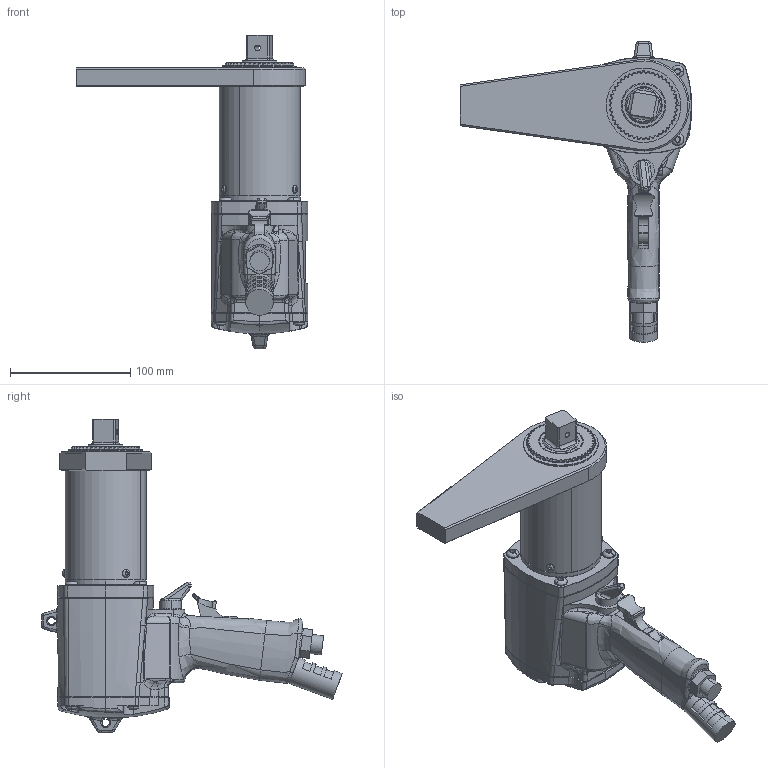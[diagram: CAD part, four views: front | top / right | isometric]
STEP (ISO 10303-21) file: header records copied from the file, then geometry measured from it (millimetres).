
FILE_DESCRIPTION (( 'STEP AP214' ), '1' );
FILE_NAME ('AAP1B66850A.STEP', '2014-12-06T00:37:58', ( 'AIMCO' ), ( '' ), 'SwSTEP 2.0', 'SolidWorks 2014', '' );
FILE_SCHEMA (( 'AUTOMOTIVE_DESIGN' ));
Length unit declared in the file: inch
Products named in the file (1): AAP1B66850A
Bounding box: 192.43 x 249.76 x 260.95 mm (x, y, z)
Surface area: 138553.3 mm2 (no closed solid volume)
Topology: 0 solids, 22 shells, 730 faces, 3004 edges, 2261 vertices
Faces by surface type: cylinder 234, plane 209, bspline 183, cone 68, torus 36
Entity records: 97397 total; most frequent: CARTESIAN_POINT 66136, ORIENTED_EDGE 4694, DIRECTION 3598, EDGE_CURVE 2991, VERTEX_POINT 2261, AXIS2_PLACEMENT_3D 1317, B_SPLINE_CURVE_WITH_KNOTS 1213, LINE 964
